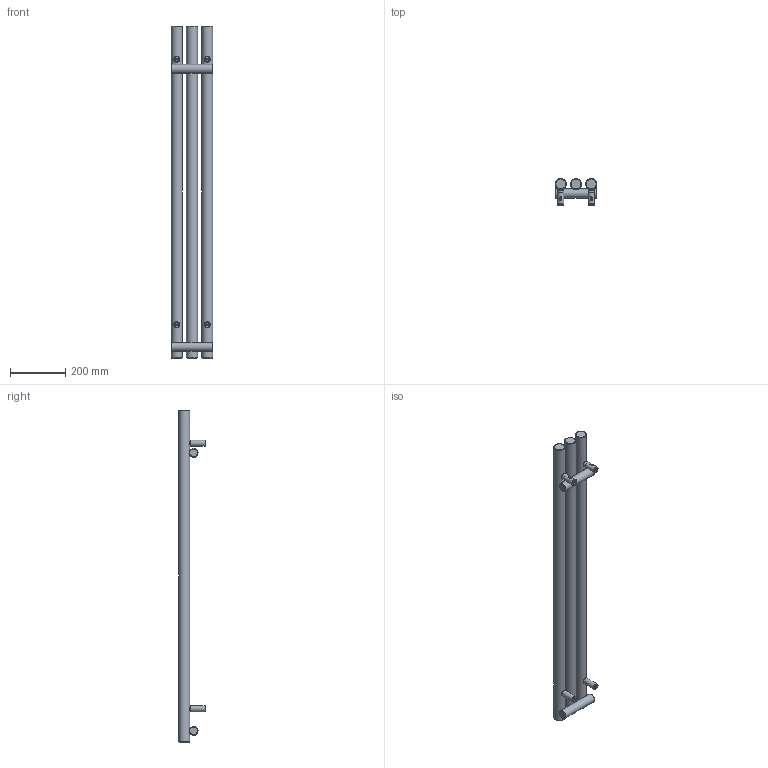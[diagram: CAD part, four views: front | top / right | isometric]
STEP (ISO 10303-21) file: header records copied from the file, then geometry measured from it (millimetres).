
FILE_DESCRIPTION(/* description */ (''),/* implementation_level */ '2;1');
FILE_NAME(/* name */ 'Z:\R\G\P\RGP116 - Grzejniki Geyser\Work\Inventor\Circolo (Rolo V, Rolo H)\ROLO-ROOM\Marketing\Bryły 3D\Zaokrąglone\WLROR120015-ES-CK-(Z).stp',/* time_stamp */ '2024-04-03T09:04:49+02:00',/* author */ ('NowAd'),/* organization */ (''),/* preprocessor_version */ 'ST-DEVELOPER v17.2',/* originating_system */ 'Autodesk Inventor 2019',/* authorisation */ '');
FILE_SCHEMA (('AUTOMOTIVE_DESIGN { 1 0 10303 214 3 1 1 }'));
Length unit declared in the file: millimetre
Products named in the file (3): WLROR120015-ES-CK-(Z); PGROR120015-ES-CK-(K); CK-V-fi40 marketing
Assembly tree (5 placements, depth 2):
  WLROR120015-ES-CK-(Z)
    PGROR120015-ES-CK-(K)
    CK-V-fi40 marketing  x4
Bounding box: 150 x 96.5 x 1200 mm (x, y, z)
Volume: 4807639.1 mm3; surface area: 521996.4 mm2
Topology: 5 solids, 5 shells, 303 faces, 769 edges, 514 vertices
Faces by surface type: plane 128, cylinder 71, cone 60, torus 38, bspline 6
Full cylindrical faces by diameter (mm): 4.134 x4, 4.48 x4, 6.4 x4, 10 x4, 12 x4, 15.834 x4, 16 x4, 18.631 x2, 22 x4, 32 x2, 40 x3
Entity records: 5190 total; most frequent: CARTESIAN_POINT 2260, DIRECTION 614, ORIENTED_EDGE 576, EDGE_CURVE 288, AXIS2_PLACEMENT_3D 271, VERTEX_POINT 196, EDGE_LOOP 150, CIRCLE 141
